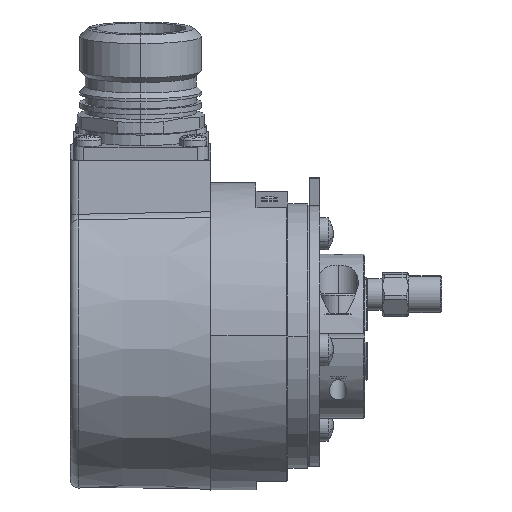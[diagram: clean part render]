
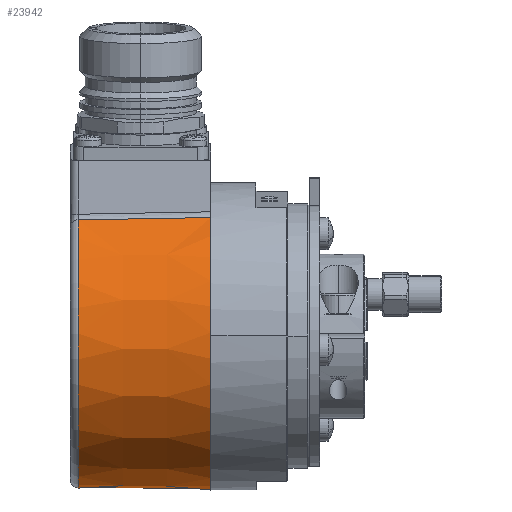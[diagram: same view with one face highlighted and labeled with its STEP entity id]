
A CAD part, top view. The second image highlights one B-rep face of the part: STEP entity #23942.
In plain terms, the highlighted conical face has half-angle 0.75 degrees and reference radius 29 mm.
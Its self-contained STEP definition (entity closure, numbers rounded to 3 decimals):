
#1963 = FACE_OUTER_BOUND ( 'NONE', #23943, .T. ) ;
#1983 = CARTESIAN_POINT ( 'NONE',  ( -17.52, 21.923, 18.479 ) ) ;
#1984 = DIRECTION ( 'NONE',  ( 0., 0.993, 0.122 ) ) ;
#1985 = DIRECTION ( 'NONE',  ( 1., 0., 0. ) ) ;
#1986 = CARTESIAN_POINT ( 'NONE',  ( -17.52, 0., 0. ) ) ;
#1988 = AXIS2_PLACEMENT_3D ( 'NONE', #1986, #1985, #1984 ) ;
#1989 = CIRCLE ( 'NONE', #1988, 28.672 ) ;
#1994 = CARTESIAN_POINT ( 'NONE',  ( -17.52, -28.459, -3.494 ) ) ;
#2022 = B_SPLINE_CURVE_WITH_KNOTS ( 'NONE', 3,
 ( #2115, #2113, #2110, #2108, #2106, #2104, #2103, #2101, #2100, #2099 ),
 .UNSPECIFIED., .F., .F.,
 ( 4, 3, 3, 4 ),
 ( 0., 0.003, 0.015, 0.025 ),
 .UNSPECIFIED. ) ;
#2025 = DIRECTION ( 'NONE',  ( 0., 0.993, 0.122 ) ) ;
#2027 = DIRECTION ( 'NONE',  ( -1., 0., 0. ) ) ;
#2028 = CARTESIAN_POINT ( 'NONE',  ( 7.5, 0., 0. ) ) ;
#2029 = AXIS2_PLACEMENT_3D ( 'NONE', #2028, #2027, #2025 ) ;
#2032 = CIRCLE ( 'NONE', #2029, 29. ) ;
#2036 = CARTESIAN_POINT ( 'NONE',  ( 7.5, 22.36, 18.467 ) ) ;
#2038 = CARTESIAN_POINT ( 'NONE',  ( 7.5, -28.784, -3.534 ) ) ;
#2041 = DIRECTION ( 'NONE',  ( 1., -0.013, -0.002 ) ) ;
#2044 = VECTOR ( 'NONE', #2041, 1000. ) ;
#2045 = CARTESIAN_POINT ( 'NONE',  ( 7.5, -28.784, -3.534 ) ) ;
#2046 = LINE ( 'NONE', #2045, #2044 ) ;
#2047 = DIRECTION ( 'NONE',  ( 0., -0.993, -0.122 ) ) ;
#2050 = DIRECTION ( 'NONE',  ( 1., 0., 0. ) ) ;
#2052 = CARTESIAN_POINT ( 'NONE',  ( 7.5, 0., 0. ) ) ;
#2054 = AXIS2_PLACEMENT_3D ( 'NONE', #2052, #2050, #2047 ) ;
#2059 = CONICAL_SURFACE ( 'NONE', #2054, 29., 0.013 ) ;
#2099 = CARTESIAN_POINT ( 'NONE',  ( -17.52, 21.923, 18.479 ) ) ;
#2100 = CARTESIAN_POINT ( 'NONE',  ( -14.179, 21.982, 18.477 ) ) ;
#2101 = CARTESIAN_POINT ( 'NONE',  ( -10.838, 22.04, 18.476 ) ) ;
#2103 = CARTESIAN_POINT ( 'NONE',  ( -7.498, 22.099, 18.474 ) ) ;
#2104 = CARTESIAN_POINT ( 'NONE',  ( -3.498, 22.169, 18.472 ) ) ;
#2106 = CARTESIAN_POINT ( 'NONE',  ( 0.501, 22.238, 18.47 ) ) ;
#2108 = CARTESIAN_POINT ( 'NONE',  ( 4.5, 22.308, 18.469 ) ) ;
#2110 = CARTESIAN_POINT ( 'NONE',  ( 5.5, 22.325, 18.468 ) ) ;
#2113 = CARTESIAN_POINT ( 'NONE',  ( 6.5, 22.343, 18.468 ) ) ;
#2115 = CARTESIAN_POINT ( 'NONE',  ( 7.5, 22.36, 18.467 ) ) ;
#23931 = VERTEX_POINT ( 'NONE', #1994 ) ;
#23934 = EDGE_CURVE ( 'NONE', #23935, #23931, #1989, .T. ) ;
#23935 = VERTEX_POINT ( 'NONE', #1983 ) ;
#23942 = ADVANCED_FACE ( 'NONE', ( #1963 ), #2059, .T. ) ;
#23943 = EDGE_LOOP ( 'NONE', ( #23944, #23945, #23952, #23958 ) ) ;
#23944 = ORIENTED_EDGE ( 'NONE', *, *, #23934, .T. ) ;
#23945 = ORIENTED_EDGE ( 'NONE', *, *, #23947, .T. ) ;
#23947 = EDGE_CURVE ( 'NONE', #23931, #23949, #2046, .T. ) ;
#23949 = VERTEX_POINT ( 'NONE', #2038 ) ;
#23951 = VERTEX_POINT ( 'NONE', #2036 ) ;
#23952 = ORIENTED_EDGE ( 'NONE', *, *, #23955, .T. ) ;
#23955 = EDGE_CURVE ( 'NONE', #23949, #23951, #2032, .T. ) ;
#23958 = ORIENTED_EDGE ( 'NONE', *, *, #23959, .T. ) ;
#23959 = EDGE_CURVE ( 'NONE', #23951, #23935, #2022, .T. ) ;
